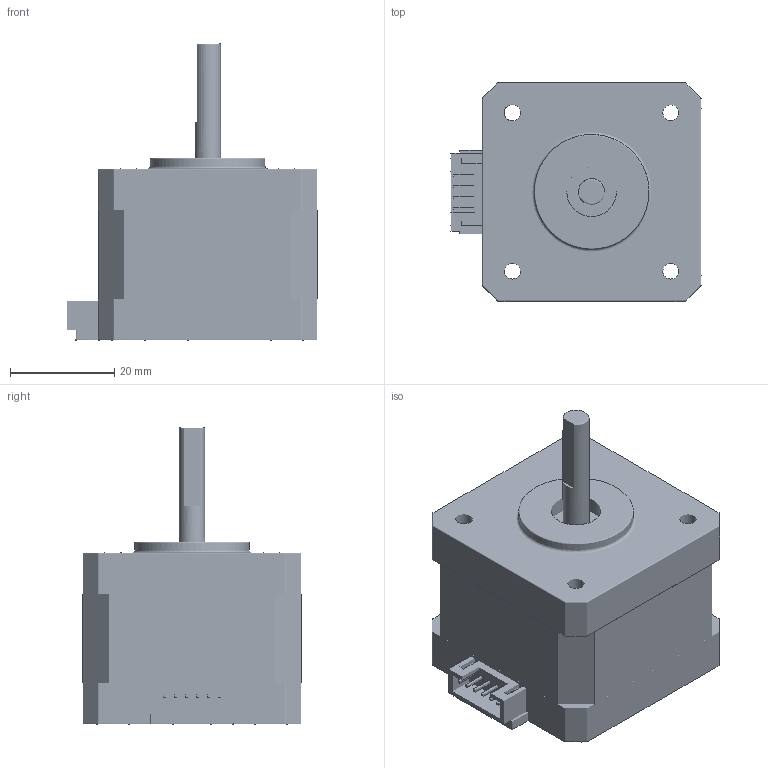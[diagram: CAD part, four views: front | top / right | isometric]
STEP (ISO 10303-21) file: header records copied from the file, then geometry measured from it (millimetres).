
FILE_DESCRIPTION(/* description */ ('STEP AP242 Edition 2','CAx-IF Rec.Pracs.---Representation and Presentation of Product Manufacturing Information (PMI)---4.0---2014-10-13','CAx-IF Rec.Pracs.---3D Tessellated Geometry---0.4---2014-09-14','2;1','CAx-IF Rec.Pracs.---User Defined Attributes---1.5---2016-08-15'),/* implementation_level */ '2;1');
FILE_NAME(/* name */ 'Assembly 1 - Part 1 (1)',/* time_stamp */ '2026-10-08T06:00:11Z',/* author */ (''),/* organization */ (''),/* preprocessor_version */ 'ST-DEVELOPER v20',/* originating_system */ 'ONSHAPE BY PTC INC, 1.221',/* authorisation */ ' ');
FILE_SCHEMA (('AP242_MANAGED_MODEL_BASED_3D_ENGINEERING_MIM_LF { 1 0 10303 442 3 1 4 }'));
Length unit declared in the file: metre
Products named in the file (1): Part 1
Bounding box: 48 x 42 x 57 mm (x, y, z)
Surface area: 11163.1 mm2 (no closed solid volume)
Topology: 0 solids, 1 shells, 1 faces, 0 edges, 0 vertices
Faces by surface type: other 1
Entity records: 31 total; most frequent: DIRECTION 2, SHAPE_REPRESENTATION_RELATIONSHIP 1, TESSELLATED_SHAPE_REPRESENTATION 1, STYLED_ITEM 1, PRESENTATION_STYLE_ASSIGNMENT 1, SURFACE_STYLE_USAGE 1, SURFACE_SIDE_STYLE 1, SURFACE_STYLE_FILL_AREA 1
